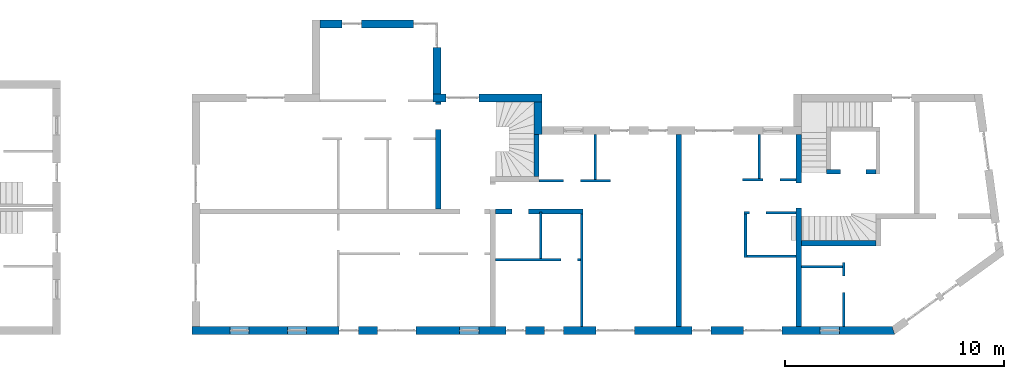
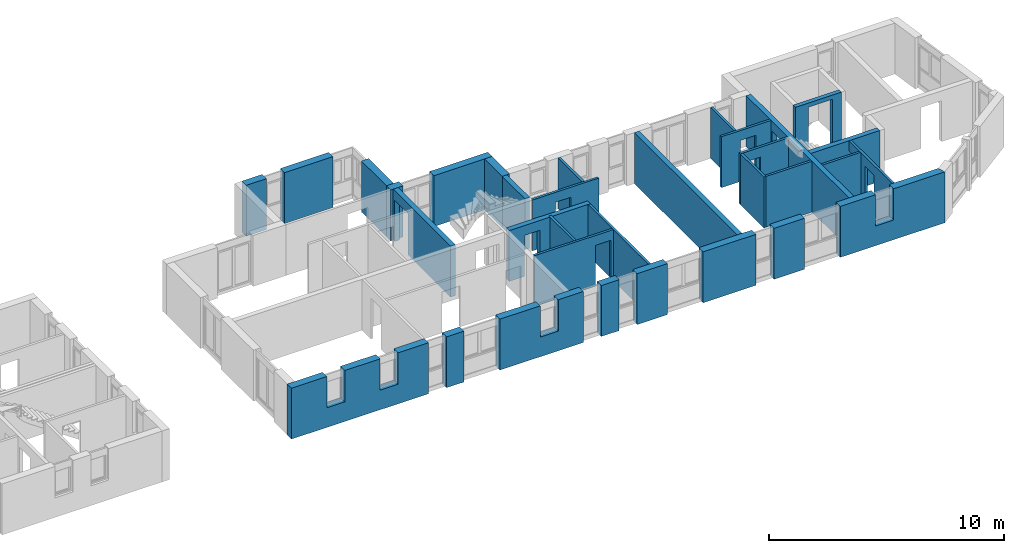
# One storey, part 2 of 42: 24 walls, 25 openings.
"""IFC2X3 building model written with IfcOpenShell, lengths in millimetres."""

from ifc_helpers import new_model, entity, si_unit, converted_unit, frame, frame_2d, origin, origin_with_axes, place, context, subcontext, project, spatial, polyline, rectangle, outline, extrude, faceted_brep, material, layer, layer_set, layer_usage, element, save


model = new_model("IFC2X3")

# Units and contexts
model_context = context("Model", 3, precision=1e-05, world=origin())
body_context = subcontext(model_context, "Body", "Model", "MODEL_VIEW")
ifc_project = project(units=[si_unit("LENGTHUNIT", "METRE", prefix="MILLI"), converted_unit("PLANEANGLEUNIT", "DEGREE", entity("IfcPlaneAngleMeasure", 0.0174532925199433), si_unit("PLANEANGLEUNIT", "RADIAN"), dimensions=[0, 0, 0, 0, 0, 0, 0]), si_unit("AREAUNIT", "SQUARE_METRE"), si_unit("VOLUMEUNIT", "CUBIC_METRE")], contexts=[model_context])

# Building, storey
building_placement = place(None, origin())
building = spatial("IfcBuilding", under=ifc_project, at=building_placement, Name="Gebäude", CompositionType="ELEMENT")
storey_placement = place(building_placement, frame((0.0, 0.0, 2730.0), z_axis=(0.0, 0.0, 1.0), x_axis=(1.0, 0.0, 0.0)))
storey = spatial("IfcBuildingStorey", under=building, at=storey_placement, Name="OG.- Grundriss", CompositionType="ELEMENT", Elevation=2730.0)

# Wall, openings
ifc_material_1 = material(Name="Poroton")
ifc_layer_1 = layer(ifc_material_1, 365.0000000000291)
ifc_layer_set_1 = layer_set([ifc_layer_1])
ifc_layer_usage_1 = layer_usage(ifc_layer_set_1, "AXIS2", "POSITIVE", 0.0)
wall_1_placement = place(storey_placement, frame((154222.7928067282, 139284.8877324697, 0.0), z_axis=(0.0, 0.0, 1.0), x_axis=(0.9999999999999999, 0.0, 0.0)))
wall_1 = element("IfcWallStandardCase", 1, at=wall_1_placement, inside=storey, material=ifc_layer_usage_1, Name="<Unnamed Element>", context=body_context, shape_type="SweptSolid", body=[
    extrude(rectangle(XDim=5520.000000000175, YDim=365.0000000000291, at=frame_2d((2760.000000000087, 182.5000000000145), x_axis=(1.0, 0.0))), origin_with_axes(), (0.0, 0.0, 1.0), 2650.0),
])
opening_1_placement = place(wall_1_placement, frame((4270.000000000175, 0.0, 0.0), z_axis=(0.0, 1.0, 0.0), x_axis=(0.0, 0.0, 1.0)))
element("IfcOpeningElement", 2, at=opening_1_placement, cuts=wall_1, Name="Fensteröffnung", ObjectType="Opening", context=body_context, shape_type="Brep", body=[
    faceted_brep([(0.0, 884.9999999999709, -884.9999999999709), (0.0, 1250.0, -884.9999999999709), (0.0, 1250.0, 365.0000000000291), (0.0, 0.0, 365.0000000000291), (0.0, 0.0, 0.0), (0.0, 884.9999999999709, 0.0), (2650.0, 1250.0, -884.9999999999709), (2650.0, 884.9999999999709, -884.9999999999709), (2650.0, 884.9999999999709, 0.0), (2650.0, 0.0, 0.0), (2650.0, 0.0, 365.0000000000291), (2650.0, 1250.0, 365.0000000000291), (0.0, 0.0, 365.0000000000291), (0.0, 1250.0, 365.0000000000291), (2650.0, 1250.0, 365.0000000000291), (2650.0, 0.0, 365.0000000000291), (0.0, 0.0, 0.0), (0.0, 0.0, 365.0000000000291), (2650.0, 0.0, 365.0000000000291), (2650.0, 0.0, 0.0), (0.0, 884.9999999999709, 0.0), (0.0, 0.0, 0.0), (2650.0, 0.0, 0.0), (2650.0, 884.9999999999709, 0.0), (0.0, 1250.0, -884.9999999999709), (0.0, 884.9999999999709, -884.9999999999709), (2650.0, 884.9999999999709, -884.9999999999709), (2650.0, 1250.0, -884.9999999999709), (0.0, 1250.0, 365.0000000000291), (0.0, 1250.0, -884.9999999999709), (2650.0, 1250.0, -884.9999999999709), (2650.0, 1250.0, 365.0000000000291), (0.0, 884.9999999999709, -884.9999999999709), (0.0, 884.9999999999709, 0.0), (2650.0, 884.9999999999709, 0.0), (2650.0, 884.9999999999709, -884.9999999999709)], [[[0, 1, 2, 3, 4, 5]], [[6, 7, 8, 9, 10, 11]], [[12, 13, 14, 15]], [[16, 17, 18, 19]], [[20, 21, 22, 23]], [[24, 25, 26, 27]], [[28, 29, 30, 31]], [[32, 33, 34, 35]]], orient=[[False], [False], [False], [False], [False], [False], [False], [False]]),
])
opening_2_placement = place(wall_1_placement, frame((999.9999999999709, 0.0, 0.0), z_axis=(0.0, 1.0, 0.0), x_axis=(0.0, 0.0, 1.0)))
element("IfcOpeningElement", 3, at=opening_2_placement, cuts=wall_1, Name="Fensteröffnung", ObjectType="Opening", context=body_context, shape_type="SweptSolid", body=[
    extrude(rectangle(XDim=2650.0, YDim=885.0, at=frame_2d((1325.0, 442.5), x_axis=(1.0, 0.0))), origin_with_axes(), (0.0, 0.0, 1.0), 365.0000000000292),
])

# Wall, opening
ifc_material_2 = material(Name="Poroton")
ifc_layer_2 = layer(ifc_material_2, 365.0000000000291)
ifc_layer_set_2 = layer_set([ifc_layer_2])
ifc_layer_usage_2 = layer_usage(ifc_layer_set_2, "AXIS2", "POSITIVE", 0.0)
wall_2_placement = place(storey_placement, frame((159377.7928067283, 139284.8877324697, 0.0), z_axis=(0.0, 0.0, 1.0), x_axis=(0.0, -1.0, 0.0)))
wall_2 = element("IfcWallStandardCase", 4, at=wall_2_placement, inside=storey, material=ifc_layer_usage_2, Name="<Unnamed Element>", context=body_context, shape_type="SweptSolid", body=[
    extrude(rectangle(XDim=3009.999999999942, YDim=365.0000000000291, at=frame_2d((1504.999999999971, 182.5000000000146), x_axis=(1.0, 0.0))), origin_with_axes(), (0.0, 0.0, 1.0), 2650.0),
])
opening_3_placement = place(wall_2_placement, frame((0.0, 0.0, 0.0), z_axis=(0.0, 1.0, 0.0), x_axis=(0.0, 0.0, 1.0)))
element("IfcOpeningElement", 5, at=opening_3_placement, cuts=wall_2, Name="Fensteröffnung", ObjectType="Opening", context=body_context, shape_type="Brep", body=[
    faceted_brep([(0.0, 884.9999999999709, 0.0), (0.0, 884.9999999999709, 365.0000000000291), (0.0, -365.0000000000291, 365.0000000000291), (0.0, -365.0000000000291, -884.9999999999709), (0.0, 0.0, -884.9999999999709), (0.0, 0.0, 0.0), (2650.0, 884.9999999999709, 365.0000000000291), (2650.0, 884.9999999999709, 0.0), (2650.0, 0.0, 0.0), (2650.0, 0.0, -884.9999999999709), (2650.0, -365.0000000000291, -884.9999999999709), (2650.0, -365.0000000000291, 365.0000000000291), (0.0, 884.9999999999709, 365.0000000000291), (0.0, 884.9999999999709, 0.0), (2650.0, 884.9999999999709, 0.0), (2650.0, 884.9999999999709, 365.0000000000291), (0.0, -365.0000000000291, 365.0000000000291), (0.0, 884.9999999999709, 365.0000000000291), (2650.0, 884.9999999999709, 365.0000000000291), (2650.0, -365.0000000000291, 365.0000000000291), (0.0, 884.9999999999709, 0.0), (0.0, 0.0, 0.0), (2650.0, 0.0, 0.0), (2650.0, 884.9999999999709, 0.0), (0.0, -365.0000000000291, -884.9999999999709), (0.0, -365.0000000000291, 365.0000000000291), (2650.0, -365.0000000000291, 365.0000000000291), (2650.0, -365.0000000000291, -884.9999999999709), (0.0, 0.0, -884.9999999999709), (0.0, -365.0000000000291, -884.9999999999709), (2650.0, -365.0000000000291, -884.9999999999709), (2650.0, 0.0, -884.9999999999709), (0.0, 0.0, 0.0), (0.0, 0.0, -884.9999999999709), (2650.0, 0.0, -884.9999999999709), (2650.0, 0.0, 0.0)], [[[0, 1, 2, 3, 4, 5]], [[6, 7, 8, 9, 10, 11]], [[12, 13, 14, 15]], [[16, 17, 18, 19]], [[20, 21, 22, 23]], [[24, 25, 26, 27]], [[28, 29, 30, 31]], [[32, 33, 34, 35]]], orient=[[False], [False], [False], [False], [False], [False], [False], [False]]),
])

# Wall
ifc_material_3 = material(Name="Poroton")
ifc_layer_3 = layer(ifc_material_3, 365.0000000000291)
ifc_layer_set_3 = layer_set([ifc_layer_3])
ifc_layer_usage_3 = layer_usage(ifc_layer_set_3, "AXIS2", "POSITIVE", 0.0)
wall_3_placement = place(storey_placement, frame((164367.7928067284, 134409.8877324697, 0.0), z_axis=(0.0, 0.0, 1.0), x_axis=(0.0, 1.0, 0.0)))
element("IfcWallStandardCase", 6, at=wall_3_placement, inside=storey, material=ifc_layer_usage_3, Name="<Unnamed Element>", context=body_context, shape_type="SweptSolid", body=[
    extrude(rectangle(XDim=1499.999999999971, YDim=365.0000000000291, at=frame_2d((749.9999999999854, 182.5000000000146), x_axis=(1.0, 0.0))), origin_with_axes(), (0.0, 0.0, 1.0), 2650.0),
])

# Wall, opening
ifc_material_4 = material(Name="Poroton")
ifc_layer_4 = layer(ifc_material_4, 365.0000000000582)
ifc_layer_set_4 = layer_set([ifc_layer_4])
ifc_layer_usage_4 = layer_usage(ifc_layer_set_4, "AXIS2", "POSITIVE", 0.0)
wall_4_placement = place(storey_placement, frame((164367.7928067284, 136274.8877324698, 0.0), z_axis=(0.0, 0.0, 1.0), x_axis=(-1.0, 0.0, 0.0)))
wall_4 = element("IfcWallStandardCase", 7, at=wall_4_placement, inside=storey, material=ifc_layer_usage_4, Name="<Unnamed Element>", context=body_context, shape_type="SweptSolid", body=[
    extrude(rectangle(XDim=4990.000000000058, YDim=365.0000000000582, at=frame_2d((2495.000000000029, 182.5000000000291), x_axis=(1.0, 0.0))), origin_with_axes(), (0.0, 0.0, 1.0), 2650.0),
])
opening_4_placement = place(wall_4_placement, frame((2865.000000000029, 0.0, 0.0), z_axis=(0.0, 1.0, 0.0), x_axis=(0.0, 0.0, 1.0)))
element("IfcOpeningElement", 8, at=opening_4_placement, cuts=wall_4, Name="Fensteröffnung", ObjectType="Opening", context=body_context, shape_type="SweptSolid", body=[
    extrude(rectangle(XDim=2650.0, YDim=1510.0, at=frame_2d((1325.0, 755.0), x_axis=(1.0, 0.0))), origin_with_axes(), (0.0, 0.0, 1.0), 365.0000000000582),
])

ifc_material_5 = material(Name="Stb-Wand")
ifc_layer_5 = layer(ifc_material_5, 200.0)
ifc_layer_set_5 = layer_set([ifc_layer_5])
ifc_layer_usage_5 = layer_usage(ifc_layer_set_5, "AXIS2", "POSITIVE", 0.0)
wall_5_placement = place(storey_placement, frame((179637.7928067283, 132804.8877324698, 0.0), z_axis=(0.0, 0.0, 1.0), x_axis=(-1.0, 0.0, 0.0)))
wall_5 = element("IfcWallStandardCase", 9, at=wall_5_placement, inside=storey, material=ifc_layer_usage_5, Name="<Unnamed Element>", context=body_context, shape_type="SweptSolid", body=[
    extrude(rectangle(XDim=2250.0, YDim=200.0, at=frame_2d((1125.0, 100.0), x_axis=(1.0, 0.0))), origin_with_axes(), (0.0, 0.0, 1.0), 2650.0),
])
opening_5_placement = place(wall_5_placement, frame((435.0, 0.0, 0.0), z_axis=(0.0, 1.0, 0.0), x_axis=(0.0, 0.0, 1.0)))
element("IfcOpeningElement", 10, at=opening_5_placement, cuts=wall_5, Name="Türöffnung", ObjectType="Opening", context=body_context, shape_type="SweptSolid", body=[
    extrude(rectangle(XDim=2430.0, YDim=1180.0, at=frame_2d((1215.0, 590.0), x_axis=(1.0, 0.0))), origin_with_axes(), (0.0, 0.0, 1.0), 200.0),
])

ifc_material_6 = material(Name="Hlz")
ifc_layer_6 = layer(ifc_material_6, 115.0)
ifc_layer_set_6 = layer_set([ifc_layer_6])
ifc_layer_usage_6 = layer_usage(ifc_layer_set_6, "AXIS2", "POSITIVE", 0.0)
wall_6_placement = place(storey_placement, frame((175997.7928067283, 132399.8877324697, 0.0), z_axis=(0.0, 0.0, 1.0), x_axis=(-1.0, 0.0, 0.0)))
wall_6 = element("IfcWallStandardCase", 11, at=wall_6_placement, inside=storey, material=ifc_layer_usage_6, Name="<Unnamed Element>", context=body_context, shape_type="SweptSolid", body=[
    extrude(rectangle(XDim=2443.777161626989, YDim=115.0, at=frame_2d((1221.888580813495, 57.5), x_axis=(1.0, 0.0))), origin_with_axes(), (0.0, 0.0, 1.0), 2650.0),
])
opening_6_placement = place(wall_6_placement, frame((750.0, 0.0, 0.0), z_axis=(0.0, 1.0, 0.0), x_axis=(0.0, 0.0, 1.0)))
element("IfcOpeningElement", 12, at=opening_6_placement, cuts=wall_6, Name="Türöffnung", ObjectType="Opening", context=body_context, shape_type="SweptSolid", body=[
    extrude(rectangle(XDim=2135.0, YDim=760.0, at=frame_2d((1067.5, 380.0), x_axis=(1.0, 0.0))), origin_with_axes(), (0.0, 0.0, 1.0), 115.0),
])

# Wall
ifc_material_7 = material(Name="Hlz")
ifc_layer_7 = layer(ifc_material_7, 115.0)
ifc_layer_set_7 = layer_set([ifc_layer_7])
ifc_layer_usage_7 = layer_usage(ifc_layer_set_7, "AXIS2", "POSITIVE", 0.0)
wall_7_placement = place(storey_placement, frame((174362.7928067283, 132399.8877324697, 0.0), z_axis=(0.0, 0.0, 1.0), x_axis=(0.0, 0.9999999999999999, 0.0)))
element("IfcWallStandardCase", 13, at=wall_7_placement, inside=storey, material=ifc_layer_usage_7, Name="<Unnamed Element>", context=body_context, shape_type="SweptSolid", body=[
    extrude(rectangle(XDim=2010.0, YDim=115.0, at=frame_2d((1005.0, 57.49999999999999), x_axis=(1.0, 0.0))), origin_with_axes(), (0.0, 0.0, 1.0), 2650.0),
])

# Wall, opening
ifc_material_8 = material(Name="Hlz")
ifc_layer_8 = layer(ifc_material_8, 115.0)
ifc_layer_set_8 = layer_set([ifc_layer_8])
ifc_layer_usage_8 = layer_usage(ifc_layer_set_8, "AXIS2", "POSITIVE", 0.0)
wall_8_placement = place(storey_placement, frame((175997.7928067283, 130899.8877324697, 0.0), z_axis=(0.0, 0.0, 1.0), x_axis=(-1.0, 0.0, 0.0)))
wall_8 = element("IfcWallStandardCase", 14, at=wall_8_placement, inside=storey, material=ifc_layer_usage_8, Name="<Unnamed Element>", context=body_context, shape_type="SweptSolid", body=[
    extrude(rectangle(XDim=2375.0, YDim=115.0, at=frame_2d((1187.5, 57.5), x_axis=(1.0, 0.0))), origin_with_axes(), (0.0, 0.0, 1.0), 2650.0),
])
opening_7_placement = place(wall_8_placement, frame((1375.0, 0.0, 0.0), z_axis=(0.0, 1.0, 0.0), x_axis=(0.0, 0.0, 1.0)))
element("IfcOpeningElement", 15, at=opening_7_placement, cuts=wall_8, Name="Türöffnung", ObjectType="Opening", context=body_context, shape_type="SweptSolid", body=[
    extrude(rectangle(XDim=2135.0, YDim=760.0, at=frame_2d((1067.5, 380.0), x_axis=(1.0, 0.0))), origin_with_axes(), (0.0, 0.0, 1.0), 115.0),
])

# Walls
ifc_material_9 = material(Name="Hlz")
ifc_layer_9 = layer(ifc_material_9, 115.0)
ifc_layer_set_9 = layer_set([ifc_layer_9])
ifc_layer_usage_9 = layer_usage(ifc_layer_set_9, "AXIS2", "POSITIVE", 0.0)
wall_9_placement = place(storey_placement, frame((173622.7928067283, 130784.8877324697, 0.0), z_axis=(0.0, 0.0, 1.0), x_axis=(0.0, -1.0, 0.0)))
element("IfcWallStandardCase", 16, at=wall_9_placement, inside=storey, material=ifc_layer_usage_9, Name="<Unnamed Element>", context=body_context, shape_type="SweptSolid", body=[
    extrude(rectangle(XDim=2000.0, YDim=115.0, at=frame_2d((1000.0, 57.5), x_axis=(1.0, 0.0))), origin_with_axes(), (0.0, 0.0, 1.0), 2650.0),
])
ifc_material_10 = material(Name="Hlz")
ifc_layer_10 = layer(ifc_material_10, 115.0)
ifc_layer_set_10 = layer_set([ifc_layer_10])
ifc_layer_usage_10 = layer_usage(ifc_layer_set_10, "AXIS2", "POSITIVE", 0.0)
wall_10_placement = place(storey_placement, frame((173737.7928067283, 128784.8877324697, 0.0), z_axis=(0.0, 0.0, 1.0), x_axis=(1.0, 0.0, 0.0)))
element("IfcWallStandardCase", 17, at=wall_10_placement, inside=storey, material=ifc_layer_usage_10, Name="<Unnamed Element>", context=body_context, shape_type="SweptSolid", body=[
    extrude(rectangle(XDim=2260.0, YDim=115.0, at=frame_2d((1130.0, 57.5), x_axis=(1.0, 0.0))), origin_with_axes(), (0.0, 0.0, 1.0), 2650.0),
])

# Wall, opening
ifc_material_11 = material(Name="Hlz")
ifc_layer_11 = layer(ifc_material_11, 240.0)
ifc_layer_set_11 = layer_set([ifc_layer_11])
ifc_layer_usage_11 = layer_usage(ifc_layer_set_11, "AXIS2", "POSITIVE", 0.0)
wall_11_placement = place(storey_placement, frame((148722.7928067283, 130774.8877324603, 0.0), z_axis=(0.0, 0.0, 1.0), x_axis=(1.0, 0.0, 0.0)))
wall_11 = element("IfcWallStandardCase", 18, at=wall_11_placement, inside=storey, material=ifc_layer_usage_11, Name="<Unnamed Element>", context=body_context, shape_type="SweptSolid", body=[
    extrude(outline(polyline([(17515.50752342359, 0.0), (17515.50409446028, 240.0), (13520.00000000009, 240.0), (13520.00000000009, 0.0), (15530.00000000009, 0.0), (15530.00000000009, 95.00000000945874), (15645.00000000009, 95.00000000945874), (15645.00000000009, 0.0), (17515.50752342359, 0.0)])), origin_with_axes(), (0.0, 0.0, 1.0), 2650.0),
])
opening_8_placement = place(wall_11_placement, frame((14270.00000000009, 0.0, 0.0), z_axis=(0.0, 1.0, 0.0), x_axis=(0.0, 0.0, 1.0)))
element("IfcOpeningElement", 19, at=opening_8_placement, cuts=wall_11, Name="Türöffnung", ObjectType="Opening", context=body_context, shape_type="SweptSolid", body=[
    extrude(rectangle(XDim=2135.0, YDim=760.0, at=frame_2d((1067.5, 380.0), x_axis=(1.0, 0.0))), origin_with_axes(), (0.0, 0.0, 1.0), 240.0),
])

# Wall
ifc_material_12 = material(Name="Hlz")
ifc_layer_12 = layer(ifc_material_12, 240.0)
ifc_layer_set_12 = layer_set([ifc_layer_12])
ifc_layer_usage_12 = layer_usage(ifc_layer_set_12, "AXIS2", "POSITIVE", 0.0)
wall_12_placement = place(storey_placement, frame((164002.7928067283, 134409.8877324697, 0.0), z_axis=(0.0, 0.0, 1.0), x_axis=(0.0, -1.0, 0.0)))
element("IfcWallStandardCase", 20, at=wall_12_placement, inside=storey, material=ifc_layer_usage_12, Name="<Unnamed Element>", context=body_context, shape_type="SweptSolid", body=[
    extrude(rectangle(XDim=1925.000000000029, YDim=240.0, at=frame_2d((962.5000000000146, 120.0), x_axis=(1.0, 0.0))), origin_with_axes(), (0.0, 0.0, 1.0), 2650.0),
])

# Wall, opening
ifc_material_13 = material(Name="Hlz")
ifc_layer_13 = layer(ifc_material_13, 115.0)
ifc_layer_set_13 = layer_set([ifc_layer_13])
ifc_layer_usage_13 = layer_usage(ifc_layer_set_13, "AXIS2", "POSITIVE", 0.0)
wall_13_placement = place(storey_placement, frame((164242.7928067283, 132244.8877324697, 0.0), z_axis=(0.0, 0.0, 1.0), x_axis=(0.9999999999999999, 0.0, 0.0)))
wall_13 = element("IfcWallStandardCase", 21, at=wall_13_placement, inside=storey, material=ifc_layer_usage_13, Name="<Unnamed Element>", context=body_context, shape_type="SweptSolid", body=[
    extrude(rectangle(XDim=3265.406240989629, YDim=115.0, at=frame_2d((1632.703120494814, 57.49999999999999), x_axis=(1.0, 0.0))), origin_with_axes(), (0.0, 0.0, 1.0), 2650.0),
])
opening_9_placement = place(wall_13_placement, frame((1125.0, 0.0, 0.0), z_axis=(0.0, 1.0, 0.0), x_axis=(0.0, 0.0, 1.0)))
element("IfcOpeningElement", 22, at=opening_9_placement, cuts=wall_13, Name="Türöffnung", ObjectType="Opening", context=body_context, shape_type="SweptSolid", body=[
    extrude(rectangle(XDim=2135.0, YDim=760.0, at=frame_2d((1067.5, 380.0), x_axis=(1.0, 0.0))), origin_with_axes(), (0.0, 0.0, 1.0), 115.0),
])

# Walls
ifc_material_14 = material(Name="Hlz")
ifc_layer_14 = layer(ifc_material_14, 115.0)
ifc_layer_set_14 = layer_set([ifc_layer_14])
ifc_layer_usage_14 = layer_usage(ifc_layer_set_14, "AXIS2", "POSITIVE", 0.0)
wall_14_placement = place(storey_placement, frame((166752.7928067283, 134409.8877324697, 0.0), z_axis=(0.0, 0.0, 1.0), x_axis=(0.0, -1.0, 0.0)))
element("IfcWallStandardCase", 23, at=wall_14_placement, inside=storey, material=ifc_layer_usage_14, Name="<Unnamed Element>", context=body_context, shape_type="SweptSolid", body=[
    extrude(rectangle(XDim=2050.000000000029, YDim=115.0, at=frame_2d((1025.000000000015, 57.5), x_axis=(1.0, 0.0))), origin_with_axes(), (0.0, 0.0, 1.0), 2650.0),
])
ifc_material_15 = material(Name="Hlz")
ifc_layer_15 = layer(ifc_material_15, 240.0)
ifc_layer_set_15 = layer_set([ifc_layer_15])
ifc_layer_usage_15 = layer_usage(ifc_layer_set_15, "AXIS2", "POSITIVE", 0.0)
wall_15_placement = place(storey_placement, frame((170742.7928053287, 125639.8877318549, 0.0), z_axis=(0.0, 0.0, 1.0), x_axis=(0.0, 1.0, 0.0)))
element("IfcWallStandardCase", 24, at=wall_15_placement, inside=storey, material=ifc_layer_usage_15, Name="<Unnamed Element>", context=body_context, shape_type="SweptSolid", body=[
    extrude(rectangle(XDim=8770.000000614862, YDim=240.0, at=frame_2d((4385.000000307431, 120.0), x_axis=(1.0, 0.0))), origin_with_axes(), (0.0, 0.0, 1.0), 2650.0),
])
ifc_material_16 = material(Name="Hlz")
ifc_layer_16 = layer(ifc_material_16, 115.0)
ifc_layer_set_16 = layer_set([ifc_layer_16])
ifc_layer_usage_16 = layer_usage(ifc_layer_set_16, "AXIS2", "POSITIVE", 0.0)
wall_16_placement = place(storey_placement, frame((166127.7928067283, 130774.8877324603, 0.0), z_axis=(0.0, 0.0, 1.0), x_axis=(0.0, -1.0, 0.0)))
element("IfcWallStandardCase", 25, at=wall_16_placement, inside=storey, material=ifc_layer_usage_16, Name="<Unnamed Element>", context=body_context, shape_type="SweptSolid", body=[
    extrude(rectangle(XDim=5135.000000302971, YDim=115.0, at=frame_2d((2567.500000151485, 57.5), x_axis=(1.0, 0.0))), origin_with_axes(), (0.0, 0.0, 1.0), 2650.0),
])

# Wall, opening
ifc_material_17 = material(Name="Hlz")
ifc_layer_17 = layer(ifc_material_17, 115.0)
ifc_layer_set_17 = layer_set([ifc_layer_17])
ifc_layer_usage_17 = layer_usage(ifc_layer_set_17, "AXIS2", "POSITIVE", 0.0)
wall_17_placement = place(storey_placement, frame((162242.7928067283, 128619.8877324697, 0.0), z_axis=(0.0, 0.0, 1.0), x_axis=(0.9999999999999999, 0.0, 0.0)))
wall_17 = element("IfcWallStandardCase", 26, at=wall_17_placement, inside=storey, material=ifc_layer_usage_17, Name="<Unnamed Element>", context=body_context, shape_type="SweptSolid", body=[
    extrude(rectangle(XDim=3885.0, YDim=115.0, at=frame_2d((1942.5, 57.49999999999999), x_axis=(1.0, 0.0))), origin_with_axes(), (0.0, 0.0, 1.0), 2650.0),
])
opening_10_placement = place(wall_17_placement, frame((3000.0, 0.0, 0.0), z_axis=(0.0, 1.0, 0.0), x_axis=(0.0, 0.0, 1.0)))
element("IfcOpeningElement", 27, at=opening_10_placement, cuts=wall_17, Name="Türöffnung", ObjectType="Opening", context=body_context, shape_type="SweptSolid", body=[
    extrude(rectangle(XDim=2135.0, YDim=760.0, at=frame_2d((1067.5, 380.0), x_axis=(1.0, 0.0))), origin_with_axes(), (0.0, 0.0, 1.0), 115.0),
])

# Wall
ifc_material_18 = material(Name="Hlz")
ifc_layer_18 = layer(ifc_material_18, 115.0)
ifc_layer_set_18 = layer_set([ifc_layer_18])
ifc_layer_usage_18 = layer_usage(ifc_layer_set_18, "AXIS2", "POSITIVE", 0.0)
wall_18_placement = place(storey_placement, frame((164252.7928067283, 130869.8877324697, 0.0), z_axis=(0.0, 0.0, 1.0), x_axis=(0.0, -1.0, 0.0)))
element("IfcWallStandardCase", 28, at=wall_18_placement, inside=storey, material=ifc_layer_usage_18, Name="<Unnamed Element>", context=body_context, shape_type="SweptSolid", body=[
    extrude(rectangle(XDim=2135.0, YDim=115.0, at=frame_2d((1067.5, 57.5), x_axis=(1.0, 0.0))), origin_with_axes(), (0.0, 0.0, 1.0), 2650.0),
])

# Wall, opening
ifc_material_19 = material(Name="Hlz")
ifc_layer_19 = layer(ifc_material_19, 240.0)
ifc_layer_set_19 = layer_set([ifc_layer_19])
ifc_layer_usage_19 = layer_usage(ifc_layer_set_19, "AXIS2", "POSITIVE", 0.0)
wall_19_placement = place(storey_placement, frame((159742.7928067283, 131014.8877324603, 0.0), z_axis=(0.0, 0.0, 1.0), x_axis=(0.0, 1.0, 0.0)))
wall_19 = element("IfcWallStandardCase", 29, at=wall_19_placement, inside=storey, material=ifc_layer_usage_19, Name="<Unnamed Element>", context=body_context, shape_type="SweptSolid", body=[
    extrude(rectangle(XDim=4895.000000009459, YDim=240.0, at=frame_2d((2447.500000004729, 120.0), x_axis=(1.0, 0.0))), origin_with_axes(), (0.0, 0.0, 1.0), 2650.0),
])
opening_11_placement = place(wall_19_placement, frame((3635.000000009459, 0.0, 0.0), z_axis=(0.0, 1.0, 0.0), x_axis=(0.0, 0.0, 1.0)))
element("IfcOpeningElement", 30, at=opening_11_placement, cuts=wall_19, Name="Türöffnung", ObjectType="Opening", context=body_context, shape_type="SweptSolid", body=[
    extrude(rectangle(XDim=2135.0, YDim=1135.0, at=frame_2d((1067.5, 567.5), x_axis=(1.0, 0.0))), origin_with_axes(), (0.0, 0.0, 1.0), 240.0),
])

# Wall, openings
ifc_material_20 = material(Name="Hlz")
ifc_layer_20 = layer(ifc_material_20, 115.0)
ifc_layer_set_20 = layer_set([ifc_layer_20])
ifc_layer_usage_20 = layer_usage(ifc_layer_set_20, "AXIS2", "POSITIVE", 0.0)
wall_20_placement = place(storey_placement, frame((178122.7928067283, 129314.8877324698, 0.0), z_axis=(0.0, 0.0, 1.0), x_axis=(0.0, -0.9999999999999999, 0.0)))
wall_20 = element("IfcWallStandardCase", 31, at=wall_20_placement, inside=storey, material=ifc_layer_usage_20, Name="<Unnamed Element>", context=body_context, shape_type="SweptSolid", body=[
    extrude(rectangle(XDim=3675.000000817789, YDim=115.0, at=frame_2d((1837.500000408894, 57.49999999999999), x_axis=(1.0, 0.0))), origin_with_axes(), (0.0, 0.0, 1.0), 2650.0),
])
opening_12_placement = place(wall_20_placement, frame((1373.557698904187, 0.0, 0.0), z_axis=(0.0, 1.0, 0.0), x_axis=(0.0, 0.0, 1.0)))
element("IfcOpeningElement", 32, at=opening_12_placement, cuts=wall_20, Name="Türöffnung", ObjectType="Opening", context=body_context, shape_type="SweptSolid", body=[
    extrude(rectangle(XDim=2135.0, YDim=760.0, at=frame_2d((1067.5, 380.0), x_axis=(1.0, 0.0))), origin_with_axes(), (0.0, 0.0, 1.0), 115.0),
])
opening_13_placement = place(wall_20_placement, frame((-1.442301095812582, 0.0, 0.0), z_axis=(0.0, 1.0, 0.0), x_axis=(0.0, 0.0, 1.0)))
element("IfcOpeningElement", 33, at=opening_13_placement, cuts=wall_20, Name="Türöffnung", ObjectType="Opening", context=body_context, shape_type="Brep", body=[
    faceted_brep([(0.0, 760.0, 0.0), (0.0, 760.0, 115.0), (0.0, 0.0, 115.0), (0.0, 0.0, 0.0), (2135.0, 760.0, 115.0), (2135.0, 760.0, 0.0), (2135.0, 0.0, 0.0), (2135.0, 0.0, 115.0), (0.0, 760.0, 115.0), (0.0, 760.0, 0.0), (2135.0, 760.0, 0.0), (2135.0, 760.0, 115.0), (0.0, 0.0, 115.0), (0.0, 760.0, 115.0), (2135.0, 760.0, 115.0), (2135.0, 0.0, 115.0), (0.0, 0.0, 0.0), (0.0, 0.0, 115.0), (2135.0, 0.0, 115.0), (2135.0, 0.0, 0.0), (0.0, 760.0, 0.0), (0.0, 0.0, 0.0), (2135.0, 0.0, 0.0), (2135.0, 760.0, 0.0)], [[[0, 1, 2, 3]], [[4, 5, 6, 7]], [[8, 9, 10, 11]], [[12, 13, 14, 15]], [[16, 17, 18, 19]], [[20, 21, 22, 23]]], orient=[[False], [False], [False], [False], [False], [False]]),
])

# Wall
ifc_material_21 = material(Name="Hlz")
ifc_layer_21 = layer(ifc_material_21, 115.0)
ifc_layer_set_21 = layer_set([ifc_layer_21])
ifc_layer_usage_21 = layer_usage(ifc_layer_set_21, "AXIS2", "POSITIVE", 0.0)
wall_21_placement = place(storey_placement, frame((176237.7928067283, 128316.3300335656, 0.0), z_axis=(0.0, 0.0, 1.0), x_axis=(0.9999999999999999, 0.0, 0.0)))
element("IfcWallStandardCase", 34, at=wall_21_placement, inside=storey, material=ifc_layer_usage_21, Name="<Unnamed Element>", context=body_context, shape_type="SweptSolid", body=[
    extrude(rectangle(XDim=1885.0, YDim=115.0, at=frame_2d((942.5, 57.49999999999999), x_axis=(1.0, 0.0))), origin_with_axes(), (0.0, 0.0, 1.0), 2650.0),
])

# Wall, opening
ifc_material_22 = material(Name="Hlz")
ifc_layer_22 = layer(ifc_material_22, 240.0)
ifc_layer_set_22 = layer_set([ifc_layer_22])
ifc_layer_usage_22 = layer_usage(ifc_layer_set_22, "AXIS2", "POSITIVE", 0.0)
wall_22_placement = place(storey_placement, frame((176237.7928067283, 125639.8877317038, 0.0), z_axis=(0.0, 0.0, 1.0), x_axis=(0.0, 1.0, 0.0)))
wall_22 = element("IfcWallStandardCase", 35, at=wall_22_placement, inside=storey, material=ifc_layer_usage_22, Name="<Unnamed Element>", context=body_context, shape_type="SweptSolid", body=[
    extrude(rectangle(XDim=8770.00000076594, YDim=240.0, at=frame_2d((4385.00000038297, 120.0), x_axis=(1.0, 0.0))), origin_with_axes(), (0.0, 0.0, 1.0), 2650.0),
])
opening_14_placement = place(wall_22_placement, frame((5415.000000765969, 0.0, 0.0), z_axis=(0.0, 1.0, 0.0), x_axis=(0.0, 0.0, 1.0)))
element("IfcOpeningElement", 36, at=opening_14_placement, cuts=wall_22, Name="Türöffnung", ObjectType="Opening", context=body_context, shape_type="SweptSolid", body=[
    extrude(rectangle(XDim=2135.0, YDim=1135.0, at=frame_2d((1067.5, 567.5), x_axis=(1.0, 0.0))), origin_with_axes(), (0.0, 0.0, 1.0), 240.0),
])

# Wall
ifc_material_23 = material(Name="Hlz")
ifc_layer_23 = layer(ifc_material_23, 240.0)
ifc_layer_set_23 = layer_set([ifc_layer_23])
ifc_layer_usage_23 = layer_usage(ifc_layer_set_23, "AXIS2", "POSITIVE", 0.0)
wall_23_placement = place(storey_placement, frame((176237.7928067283, 129314.8877324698, 0.0), z_axis=(0.0, 0.0, 1.0), x_axis=(0.9999999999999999, 0.0, 0.0)))
element("IfcWallStandardCase", 37, at=wall_23_placement, inside=storey, material=ifc_layer_usage_23, Name="<Unnamed Element>", context=body_context, shape_type="SweptSolid", body=[
    extrude(rectangle(XDim=3400.0, YDim=240.0, at=frame_2d((1700.0, 120.0), x_axis=(1.0, 0.0))), origin_with_axes(), (0.0, 0.0, 1.0), 2650.0),
])

# Wall, openings
ifc_material_24 = material(Name="Poroton")
ifc_layer_24 = layer(ifc_material_24, 365.0000000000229)
ifc_layer_set_24 = layer_set([ifc_layer_24])
ifc_layer_usage_24 = layer_usage(ifc_layer_set_24, "AXIS2", "POSITIVE", 0.0)
wall_24_placement = place(storey_placement, frame((148357.7928067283, 125274.8877324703, 0.0), z_axis=(0.0, 0.0, 1.0), x_axis=(1.0, -2.749268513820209e-11, 0.0)))
wall_24 = element("IfcWallStandardCase", 38, at=wall_24_placement, inside=storey, material=ifc_layer_usage_24, Name="<Unnamed Element>", context=body_context, shape_type="SweptSolid", body=[
    extrude(outline(polyline([(0.0, 0.0), (32144.99999877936, 0.0), (32026.74038666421, 365.0000000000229), (-1.003483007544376e-08, 365.0), (0.0, 0.0)])), origin_with_axes(), (0.0, 0.0, 1.0), 2650.0),
])
opening_15_placement = place(wall_24_placement, frame((22865.29648749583, -9.393166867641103e-11, 0.0), z_axis=(0.0, 1.0, 0.0), x_axis=(0.0, 0.0, 1.0)))
element("IfcOpeningElement", 39, at=opening_15_placement, cuts=wall_24, Name="Fensteröffnung", ObjectType="Opening", context=body_context, shape_type="SweptSolid", body=[
    extrude(rectangle(XDim=2650.0, YDim=885.0, at=frame_2d((1325.0, 442.5), x_axis=(1.0, 0.0))), origin_with_axes(), (0.0, 0.0, 1.0), 365.0000000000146),
])
opening_16_placement = place(wall_24_placement, frame((25240.29648749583, -1.030266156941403e-10, 0.0), z_axis=(0.0, 1.0, 0.0), x_axis=(0.0, 0.0, 1.0)))
element("IfcOpeningElement", 40, at=opening_16_placement, cuts=wall_24, Name="Fensteröffnung", ObjectType="Opening", context=body_context, shape_type="SweptSolid", body=[
    extrude(rectangle(XDim=2650.0, YDim=1760.0, at=frame_2d((1325.0, 880.0), x_axis=(1.0, 0.0))), origin_with_axes(), (0.0, 0.0, 1.0), 365.0000000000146),
])
opening_17_placement = place(wall_24_placement, frame((14365.26291869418, -5.847463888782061e-11, 0.0), z_axis=(0.0, 1.0, 0.0), x_axis=(0.0, 0.0, 1.0)))
element("IfcOpeningElement", 41, at=opening_17_placement, cuts=wall_24, Name="Fensteröffnung", ObjectType="Opening", context=body_context, shape_type="SweptSolid", body=[
    extrude(rectangle(XDim=2650.0, YDim=885.0, at=frame_2d((1325.0, 442.5), x_axis=(1.0, 0.0))), origin_with_axes(), (0.0, 0.0, 1.0), 365.0000000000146),
])
opening_18_placement = place(wall_24_placement, frame((16123.92212975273, -7.146586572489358e-11, 0.0), z_axis=(0.0, 1.0, 0.0), x_axis=(0.0, 0.0, 1.0)))
element("IfcOpeningElement", 42, at=opening_18_placement, cuts=wall_24, Name="Fensteröffnung", ObjectType="Opening", context=body_context, shape_type="SweptSolid", body=[
    extrude(rectangle(XDim=2650.0, YDim=885.0, at=frame_2d((1325.0, 442.5), x_axis=(1.0, 0.0))), origin_with_axes(), (0.0, 0.0, 1.0), 365.0000000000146),
])
opening_19_placement = place(wall_24_placement, frame((6739.999999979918, -3.114109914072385e-11, 0.0), z_axis=(0.0, 1.0, 0.0), x_axis=(0.0, 0.0, 1.0)))
element("IfcOpeningElement", 43, at=opening_19_placement, cuts=wall_24, Name="Fensteröffnung", ObjectType="Opening", context=body_context, shape_type="SweptSolid", body=[
    extrude(rectangle(XDim=2650.0, YDim=885.0, at=frame_2d((1325.0, 442.5), x_axis=(1.0, 0.0))), origin_with_axes(), (0.0, 0.0, 1.0), 365.0000000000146),
])
opening_20_placement = place(wall_24_placement, frame((8489.999999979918, -3.477907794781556e-11, 0.0), z_axis=(0.0, 1.0, 0.0), x_axis=(0.0, 0.0, 1.0)))
element("IfcOpeningElement", 44, at=opening_20_placement, cuts=wall_24, Name="Fensteröffnung", ObjectType="Opening", context=body_context, shape_type="SweptSolid", body=[
    extrude(rectangle(XDim=2650.0, YDim=1760.0, at=frame_2d((1325.0, 880.0), x_axis=(1.0, 0.0))), origin_with_axes(), (0.0, 0.0, 1.0), 365.0000000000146),
])
opening_21_placement = place(wall_24_placement, frame((1740.0, -3.114109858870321e-11, 1020.0), z_axis=(0.0, 1.0, 0.0), x_axis=(0.0, 0.0, 1.0)))
element("IfcOpeningElement", 45, at=opening_21_placement, cuts=wall_24, Name="Fensteröffnung", ObjectType="Opening", context=body_context, shape_type="SweptSolid", body=[
    extrude(rectangle(XDim=1630.0, YDim=885.0, at=frame_2d((815.0, 442.5), x_axis=(1.0, 0.0))), origin_with_axes(), (0.0, 0.0, 1.0), 365.0000000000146),
])
opening_22_placement = place(wall_24_placement, frame((4365.0, -7.494236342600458e-12, 1020.0), z_axis=(0.0, 1.0, 0.0), x_axis=(0.0, 0.0, 1.0)))
element("IfcOpeningElement", 46, at=opening_22_placement, cuts=wall_24, Name="Fensteröffnung", ObjectType="Opening", context=body_context, shape_type="SweptSolid", body=[
    extrude(rectangle(XDim=1630.0, YDim=885.0, at=frame_2d((815.0, 442.5), x_axis=(1.0, 0.0))), origin_with_axes(), (0.0, 0.0, 1.0), 365.0000000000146),
])
opening_23_placement = place(wall_24_placement, frame((12240.0, -5.296897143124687e-11, 1020.0), z_axis=(0.0, 1.0, 0.0), x_axis=(0.0, 0.0, 1.0)))
element("IfcOpeningElement", 47, at=opening_23_placement, cuts=wall_24, Name="Fensteröffnung", ObjectType="Opening", context=body_context, shape_type="SweptSolid", body=[
    extrude(rectangle(XDim=1630.0, YDim=885.0, at=frame_2d((815.0, 442.5), x_axis=(1.0, 0.0))), origin_with_axes(), (0.0, 0.0, 1.0), 365.0000000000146),
])
opening_24_placement = place(wall_24_placement, frame((18490.51063065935, -4.984640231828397e-11, 0.0), z_axis=(0.0, 1.0, 0.0), x_axis=(0.0, 0.0, 1.0)))
element("IfcOpeningElement", 48, at=opening_24_placement, cuts=wall_24, Name="Fensteröffnung", ObjectType="Opening", context=body_context, shape_type="SweptSolid", body=[
    extrude(rectangle(XDim=2650.0, YDim=1760.0, at=frame_2d((1325.0, 880.0), x_axis=(1.0, 0.0))), origin_with_axes(), (0.0, 0.0, 1.0), 365.0000000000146),
])
opening_25_placement = place(wall_24_placement, frame((28740.29648749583, -1.103025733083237e-10, 1020.0), z_axis=(0.0, 1.0, 0.0), x_axis=(0.0, 0.0, 1.0)))
element("IfcOpeningElement", 49, at=opening_25_placement, cuts=wall_24, Name="Fensteröffnung", ObjectType="Opening", context=body_context, shape_type="SweptSolid", body=[
    extrude(rectangle(XDim=1630.0, YDim=885.0, at=frame_2d((815.0, 442.5), x_axis=(1.0, 0.0))), origin_with_axes(), (0.0, 0.0, 1.0), 365.0000000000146),
])

save(model, "model.ifc")
